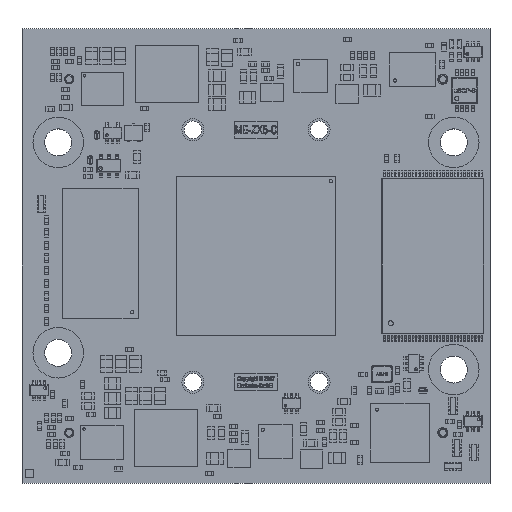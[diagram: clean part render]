
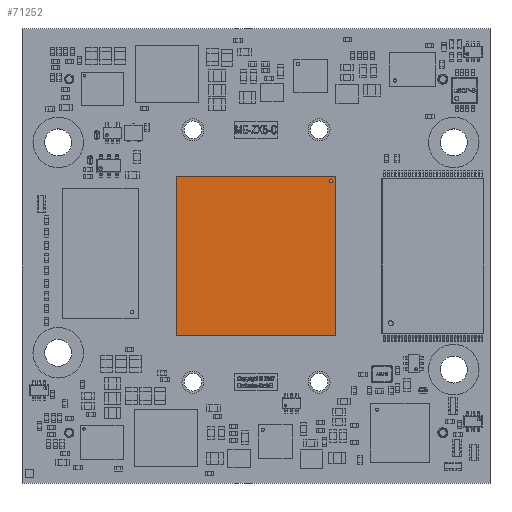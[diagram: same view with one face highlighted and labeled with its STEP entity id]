
A CAD part, top view. The second image highlights one B-rep face of the part: STEP entity #71252.
In plain terms, the highlighted planar face has unit normal (0, 0, 1).
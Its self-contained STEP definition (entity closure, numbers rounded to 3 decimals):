
#70938 = VERTEX_POINT('',#70939);
#70939 = CARTESIAN_POINT('',(-9.5,9.5,1.25));
#70946 = PLANE('',#70947);
#70947 = AXIS2_PLACEMENT_3D('',#70948,#70949,#70950);
#70948 = CARTESIAN_POINT('',(-9.5,9.5,0.));
#70949 = DIRECTION('',(1.,0.,0.));
#70950 = DIRECTION('',(0.,-1.,0.));
#70958 = PLANE('',#70959);
#70959 = AXIS2_PLACEMENT_3D('',#70960,#70961,#70962);
#70960 = CARTESIAN_POINT('',(9.5,9.5,0.));
#70961 = DIRECTION('',(0.,-1.,0.));
#70962 = DIRECTION('',(-1.,0.,0.));
#70970 = EDGE_CURVE('',#70938,#70971,#70973,.T.);
#70971 = VERTEX_POINT('',#70972);
#70972 = CARTESIAN_POINT('',(-9.5,-9.5,1.25));
#70973 = SURFACE_CURVE('',#70974,(#70978,#70985),.PCURVE_S1.);
#70974 = LINE('',#70975,#70976);
#70975 = CARTESIAN_POINT('',(-9.5,9.5,1.25));
#70976 = VECTOR('',#70977,1.);
#70977 = DIRECTION('',(0.,-1.,0.));
#70978 = PCURVE('',#70946,#70979);
#70979 = DEFINITIONAL_REPRESENTATION('',(#70980),#70984);
#70980 = LINE('',#70981,#70982);
#70981 = CARTESIAN_POINT('',(0.,-1.25));
#70982 = VECTOR('',#70983,1.);
#70983 = DIRECTION('',(1.,0.));
#70984 = ( GEOMETRIC_REPRESENTATION_CONTEXT(2) 
PARAMETRIC_REPRESENTATION_CONTEXT() REPRESENTATION_CONTEXT('2D SPACE',''
  ) );
#70985 = PCURVE('',#70986,#70991);
#70986 = PLANE('',#70987);
#70987 = AXIS2_PLACEMENT_3D('',#70988,#70989,#70990);
#70988 = CARTESIAN_POINT('',(-9.5,9.5,1.25));
#70989 = DIRECTION('',(0.,0.,-1.));
#70990 = DIRECTION('',(-1.,0.,0.));
#70991 = DEFINITIONAL_REPRESENTATION('',(#70992),#70996);
#70992 = LINE('',#70993,#70994);
#70993 = CARTESIAN_POINT('',(0.,0.));
#70994 = VECTOR('',#70995,1.);
#70995 = DIRECTION('',(0.,-1.));
#70996 = ( GEOMETRIC_REPRESENTATION_CONTEXT(2) 
PARAMETRIC_REPRESENTATION_CONTEXT() REPRESENTATION_CONTEXT('2D SPACE',''
  ) );
#71014 = PLANE('',#71015);
#71015 = AXIS2_PLACEMENT_3D('',#71016,#71017,#71018);
#71016 = CARTESIAN_POINT('',(-9.5,-9.5,0.));
#71017 = DIRECTION('',(0.,1.,0.));
#71018 = DIRECTION('',(1.,0.,0.));
#71056 = EDGE_CURVE('',#70971,#71057,#71059,.T.);
#71057 = VERTEX_POINT('',#71058);
#71058 = CARTESIAN_POINT('',(9.5,-9.5,1.25));
#71059 = SURFACE_CURVE('',#71060,(#71064,#71071),.PCURVE_S1.);
#71060 = LINE('',#71061,#71062);
#71061 = CARTESIAN_POINT('',(-9.5,-9.5,1.25));
#71062 = VECTOR('',#71063,1.);
#71063 = DIRECTION('',(1.,0.,0.));
#71064 = PCURVE('',#71014,#71065);
#71065 = DEFINITIONAL_REPRESENTATION('',(#71066),#71070);
#71066 = LINE('',#71067,#71068);
#71067 = CARTESIAN_POINT('',(0.,-1.25));
#71068 = VECTOR('',#71069,1.);
#71069 = DIRECTION('',(1.,0.));
#71070 = ( GEOMETRIC_REPRESENTATION_CONTEXT(2) 
PARAMETRIC_REPRESENTATION_CONTEXT() REPRESENTATION_CONTEXT('2D SPACE',''
  ) );
#71071 = PCURVE('',#70986,#71072);
#71072 = DEFINITIONAL_REPRESENTATION('',(#71073),#71077);
#71073 = LINE('',#71074,#71075);
#71074 = CARTESIAN_POINT('',(0.,-19.));
#71075 = VECTOR('',#71076,1.);
#71076 = DIRECTION('',(-1.,0.));
#71077 = ( GEOMETRIC_REPRESENTATION_CONTEXT(2) 
PARAMETRIC_REPRESENTATION_CONTEXT() REPRESENTATION_CONTEXT('2D SPACE',''
  ) );
#71095 = PLANE('',#71096);
#71096 = AXIS2_PLACEMENT_3D('',#71097,#71098,#71099);
#71097 = CARTESIAN_POINT('',(9.5,-9.5,0.));
#71098 = DIRECTION('',(-1.,0.,0.));
#71099 = DIRECTION('',(0.,1.,0.));
#71132 = EDGE_CURVE('',#71057,#71133,#71135,.T.);
#71133 = VERTEX_POINT('',#71134);
#71134 = CARTESIAN_POINT('',(9.5,9.5,1.25));
#71135 = SURFACE_CURVE('',#71136,(#71140,#71147),.PCURVE_S1.);
#71136 = LINE('',#71137,#71138);
#71137 = CARTESIAN_POINT('',(9.5,-9.5,1.25));
#71138 = VECTOR('',#71139,1.);
#71139 = DIRECTION('',(0.,1.,0.));
#71140 = PCURVE('',#71095,#71141);
#71141 = DEFINITIONAL_REPRESENTATION('',(#71142),#71146);
#71142 = LINE('',#71143,#71144);
#71143 = CARTESIAN_POINT('',(0.,-1.25));
#71144 = VECTOR('',#71145,1.);
#71145 = DIRECTION('',(1.,0.));
#71146 = ( GEOMETRIC_REPRESENTATION_CONTEXT(2) 
PARAMETRIC_REPRESENTATION_CONTEXT() REPRESENTATION_CONTEXT('2D SPACE',''
  ) );
#71147 = PCURVE('',#70986,#71148);
#71148 = DEFINITIONAL_REPRESENTATION('',(#71149),#71153);
#71149 = LINE('',#71150,#71151);
#71150 = CARTESIAN_POINT('',(-19.,-19.));
#71151 = VECTOR('',#71152,1.);
#71152 = DIRECTION('',(0.,1.));
#71153 = ( GEOMETRIC_REPRESENTATION_CONTEXT(2) 
PARAMETRIC_REPRESENTATION_CONTEXT() REPRESENTATION_CONTEXT('2D SPACE',''
  ) );
#71203 = EDGE_CURVE('',#71133,#70938,#71204,.T.);
#71204 = SURFACE_CURVE('',#71205,(#71209,#71216),.PCURVE_S1.);
#71205 = LINE('',#71206,#71207);
#71206 = CARTESIAN_POINT('',(9.5,9.5,1.25));
#71207 = VECTOR('',#71208,1.);
#71208 = DIRECTION('',(-1.,0.,0.));
#71209 = PCURVE('',#70958,#71210);
#71210 = DEFINITIONAL_REPRESENTATION('',(#71211),#71215);
#71211 = LINE('',#71212,#71213);
#71212 = CARTESIAN_POINT('',(0.,-1.25));
#71213 = VECTOR('',#71214,1.);
#71214 = DIRECTION('',(1.,0.));
#71215 = ( GEOMETRIC_REPRESENTATION_CONTEXT(2) 
PARAMETRIC_REPRESENTATION_CONTEXT() REPRESENTATION_CONTEXT('2D SPACE',''
  ) );
#71216 = PCURVE('',#70986,#71217);
#71217 = DEFINITIONAL_REPRESENTATION('',(#71218),#71222);
#71218 = LINE('',#71219,#71220);
#71219 = CARTESIAN_POINT('',(-19.,0.));
#71220 = VECTOR('',#71221,1.);
#71221 = DIRECTION('',(1.,0.));
#71222 = ( GEOMETRIC_REPRESENTATION_CONTEXT(2) 
PARAMETRIC_REPRESENTATION_CONTEXT() REPRESENTATION_CONTEXT('2D SPACE',''
  ) );
#71252 = ADVANCED_FACE('',(#71253),#70986,.F.);
#71253 = FACE_BOUND('',#71254,.T.);
#71254 = EDGE_LOOP('',(#71255,#71256,#71257,#71258));
#71255 = ORIENTED_EDGE('',*,*,#70970,.T.);
#71256 = ORIENTED_EDGE('',*,*,#71056,.T.);
#71257 = ORIENTED_EDGE('',*,*,#71132,.T.);
#71258 = ORIENTED_EDGE('',*,*,#71203,.T.);
